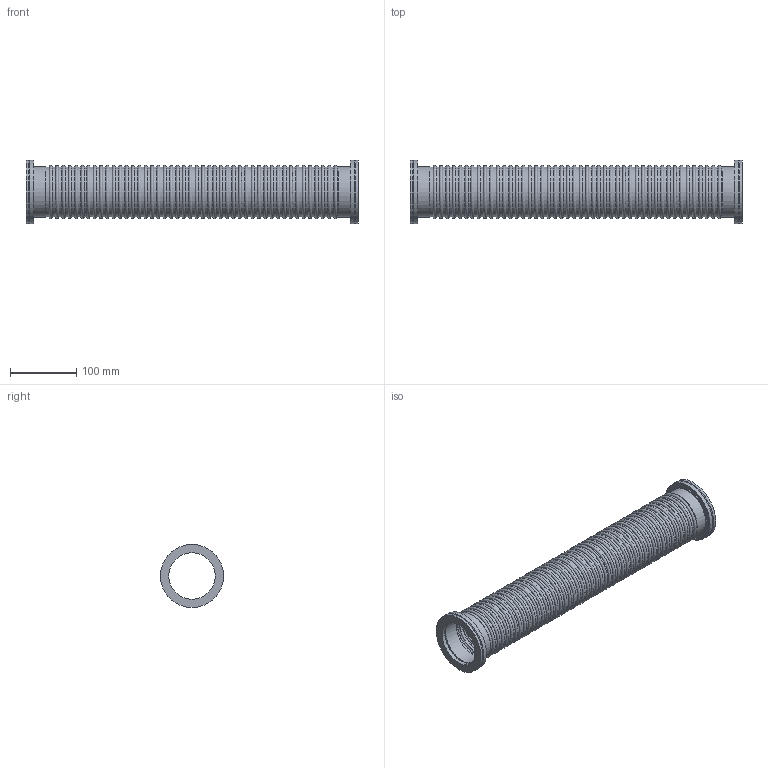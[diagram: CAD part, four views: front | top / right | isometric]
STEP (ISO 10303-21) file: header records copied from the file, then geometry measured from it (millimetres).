
FILE_DESCRIPTION( ( 'Unknown' ), '1' );
FILE_NAME( 'X:/Daten ( aktueller Bestand )/Projekte und Zeichnungen/Solid Edge/STP-Dateien/ISO-K Teile und Zubehör/6911U.stp', 'Unknown', ( 'Unknown' ), ( 'Unknown' ), 'PSStep 14.0', 'Unknown', ' ' );
FILE_SCHEMA( ( 'AUTOMOTIVE_DESIGN { 1 0 10303 214 1 1 1 1 }' ) );
Length unit declared in the file: millimetre
Products named in the file (8): 6521-1; 6511; 6911-1; Assem1
Assembly tree (8 placements, depth 4):
  Assem1
    6911-1
      6911-1
    Assem1  x2
      6521-1
        6521-1
      6511
        6511
Bounding box: 500 x 95 x 95 mm (x, y, z)
Volume: 164217.6 mm3; surface area: 329685.5 mm2
Topology: 5 solids, 5 shells, 222 faces, 476 edges, 270 vertices
Faces by surface type: cylinder 110, torus 94, plane 16, cone 2
Full cylindrical faces by diameter (mm): 70 x4, 74.2 x47, 75.2 x47, 76 x2, 76.5 x2, 80 x2, 90 x2, 95 x4
Entity records: 5930 total; most frequent: DIRECTION 846, CARTESIAN_POINT 628, AXIS2_PLACEMENT_3D 423, EDGE_LOOP 410, ORIENTED_EDGE 410, FACE_OUTER_BOUND 400, STYLED_ITEM 205, PRESENTATION_STYLE_ASSIGNMENT 205
